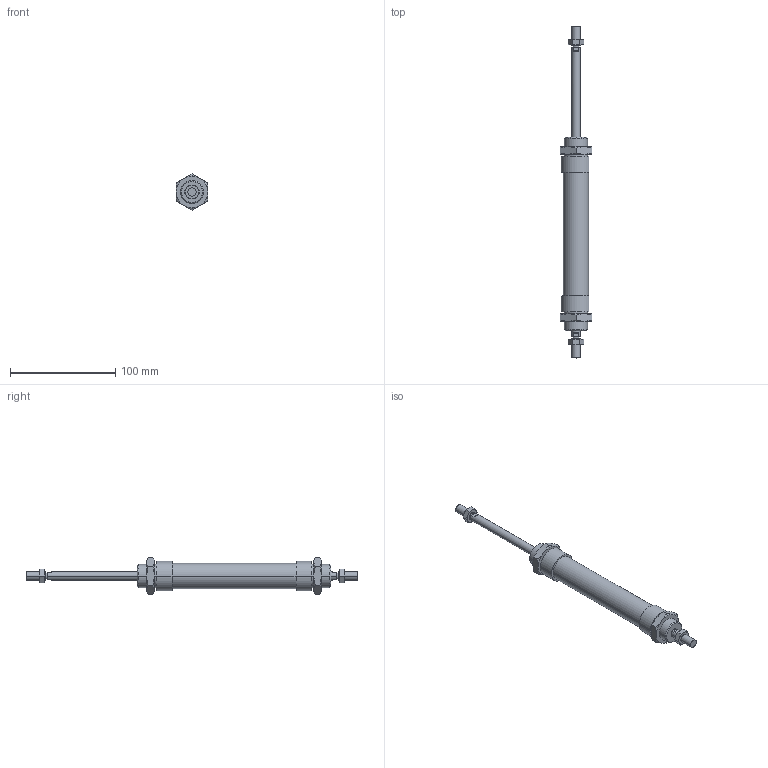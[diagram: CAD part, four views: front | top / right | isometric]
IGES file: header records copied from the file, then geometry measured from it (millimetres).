
Global section: file name: No Iges File Name specified; native system: AutoDesk Inventor R6.0; preprocessor: AutoDesk Inventor Iges Exporter R6.0; author: No Author specified; organization: No Organization specified; date: 20030403.072313; units: millimetre
Bounding box: 30 x 316 x 34.64 mm (x, y, z)
Volume: 97631.8 mm3; surface area: 33247.9 mm2
Topology: 6 solids, 6 shells, 186 faces, 414 edges, 244 vertices
Faces by surface type: cone 68, plane 60, bspline 32, cylinder 20, revolution 6
